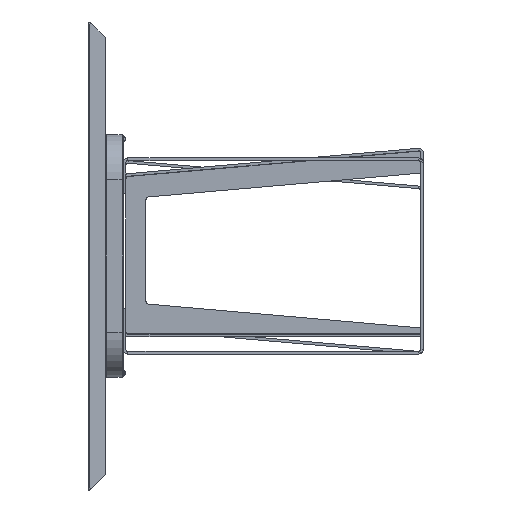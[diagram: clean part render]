
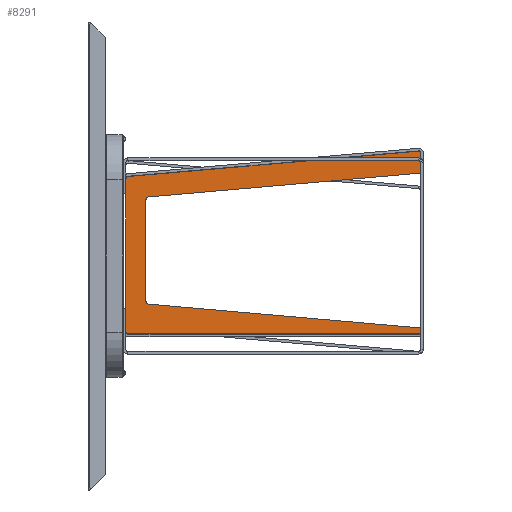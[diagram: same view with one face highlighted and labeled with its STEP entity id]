
A CAD part, left-side view. The second image highlights one B-rep face of the part: STEP entity #8291.
In plain terms, the highlighted planar face has unit normal (-1, 0, 0) as drawn and (0, 0, 1) by its records, which use the part's own axes.
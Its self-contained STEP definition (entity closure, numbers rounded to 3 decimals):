
#98 = ORIENTED_EDGE ( 'NONE', *, *, #192, .T. ) ;
#192 = EDGE_CURVE ( 'NONE', #14121, #15669, #4611, .T. ) ;
#447 = ORIENTED_EDGE ( 'NONE', *, *, #13351, .T. ) ;
#463 = CARTESIAN_POINT ( 'NONE',  ( 133.943, 621.197, 15. ) ) ;
#717 = DIRECTION ( 'NONE',  ( 1., 0., 0. ) ) ;
#840 = VECTOR ( 'NONE', #7956, 1000. ) ;
#1073 = AXIS2_PLACEMENT_3D ( 'NONE', #10682, #1897, #16510 ) ;
#1093 = DIRECTION ( 'NONE',  ( 1., 0., 0. ) ) ;
#1462 = VECTOR ( 'NONE', #18189, 1000. ) ;
#1559 = CARTESIAN_POINT ( 'NONE',  ( -171.5, 6.5, 15. ) ) ;
#1897 = DIRECTION ( 'NONE',  ( 0., 0., 1. ) ) ;
#2302 = CARTESIAN_POINT ( 'NONE',  ( -176.5, 11.5, 15. ) ) ;
#2331 = LINE ( 'NONE', #12354, #1462 ) ;
#2626 = CIRCLE ( 'NONE', #5971, 5. ) ;
#2630 = PLANE ( 'NONE',  #11637 ) ;
#2776 = ORIENTED_EDGE ( 'NONE', *, *, #4427, .T. ) ;
#2796 = AXIS2_PLACEMENT_3D ( 'NONE', #18769, #17245, #4146 ) ;
#3795 = CARTESIAN_POINT ( 'NONE',  ( -176.5, 668.5, 15. ) ) ;
#3819 = ORIENTED_EDGE ( 'NONE', *, *, #12849, .T. ) ;
#3847 = LINE ( 'NONE', #16849, #840 ) ;
#3864 = EDGE_CURVE ( 'NONE', #9550, #4285, #13949, .T. ) ;
#3950 = EDGE_CURVE ( 'NONE', #6817, #14440, #17567, .T. ) ;
#4146 = DIRECTION ( 'NONE',  ( 1., 0., 0. ) ) ;
#4195 = EDGE_CURVE ( 'NONE', #11967, #6537, #17747, .T. ) ;
#4285 = VERTEX_POINT ( 'NONE', #10168 ) ;
#4427 = EDGE_CURVE ( 'NONE', #14962, #11967, #16644, .T. ) ;
#4611 = CIRCLE ( 'NONE', #2796, 5. ) ;
#5099 = DIRECTION ( 'NONE',  ( 1., 0., 0. ) ) ;
#5607 = DIRECTION ( 'NONE',  ( 1., 0., 0. ) ) ;
#5666 = ORIENTED_EDGE ( 'NONE', *, *, #18119, .T. ) ;
#5761 = LINE ( 'NONE', #12921, #12132 ) ;
#5809 = DIRECTION ( 'NONE',  ( -0.087, -0.996, 0. ) ) ;
#5971 = AXIS2_PLACEMENT_3D ( 'NONE', #8373, #17167, #5607 ) ;
#6057 = CIRCLE ( 'NONE', #10011, 8. ) ;
#6261 = CARTESIAN_POINT ( 'NONE',  ( 125.973, 628.5, 15. ) ) ;
#6537 = VERTEX_POINT ( 'NONE', #7916 ) ;
#6683 = DIRECTION ( 'NONE',  ( 1., 0., 0. ) ) ;
#6791 = LINE ( 'NONE', #15495, #11254 ) ;
#6817 = VERTEX_POINT ( 'NONE', #14310 ) ;
#6972 = EDGE_CURVE ( 'NONE', #6817, #12069, #6057, .T. ) ;
#7518 = EDGE_LOOP ( 'NONE', ( #3819, #10106, #9138, #16781, #13957, #447, #5666, #98, #16790, #8322, #17169, #17590, #2776, #14837 ) ) ;
#7874 = CIRCLE ( 'NONE', #17042, 5. ) ;
#7895 = DIRECTION ( 'NONE',  ( 0., 0., -1. ) ) ;
#7916 = CARTESIAN_POINT ( 'NONE',  ( 187.722, 6.5, 15. ) ) ;
#7952 = DIRECTION ( 'NONE',  ( 0., 0., -1. ) ) ;
#7956 = DIRECTION ( 'NONE',  ( -1., 0., 0. ) ) ;
#8291 = ADVANCED_FACE ( 'NONE', ( #12650 ), #2630, .F. ) ;
#8322 = ORIENTED_EDGE ( 'NONE', *, *, #3950, .F. ) ;
#8373 = CARTESIAN_POINT ( 'NONE',  ( -171.5, 668.5, 15. ) ) ;
#8539 = CARTESIAN_POINT ( 'NONE',  ( 174.976, 673.5, 15. ) ) ;
#9135 = CARTESIAN_POINT ( 'NONE',  ( -101.213, 620.5, 15. ) ) ;
#9138 = ORIENTED_EDGE ( 'NONE', *, *, #16485, .T. ) ;
#9267 = CARTESIAN_POINT ( 'NONE',  ( 232.456, 6.5, 15. ) ) ;
#9306 = CIRCLE ( 'NONE', #1073, 5. ) ;
#9524 = CARTESIAN_POINT ( 'NONE',  ( -101.213, 628.5, 15. ) ) ;
#9550 = VERTEX_POINT ( 'NONE', #8539 ) ;
#9617 = CARTESIAN_POINT ( 'NONE',  ( 237.437, 11.936, 15. ) ) ;
#10011 = AXIS2_PLACEMENT_3D ( 'NONE', #9135, #7895, #13550 ) ;
#10106 = ORIENTED_EDGE ( 'NONE', *, *, #17686, .T. ) ;
#10168 = CARTESIAN_POINT ( 'NONE',  ( -171.5, 673.5, 15. ) ) ;
#10206 = VECTOR ( 'NONE', #6683, 1000. ) ;
#10465 = CARTESIAN_POINT ( 'NONE',  ( 232.456, 11.5, 15. ) ) ;
#10682 = CARTESIAN_POINT ( 'NONE',  ( 174.976, 668.5, 15. ) ) ;
#10903 = LINE ( 'NONE', #13768, #10206 ) ;
#11254 = VECTOR ( 'NONE', #18452, 1000. ) ;
#11448 = CARTESIAN_POINT ( 'NONE',  ( -162.284, 14.242, 15. ) ) ;
#11637 = AXIS2_PLACEMENT_3D ( 'NONE', #14277, #13993, #1093 ) ;
#11757 = VECTOR ( 'NONE', #14689, 1000. ) ;
#11967 = VERTEX_POINT ( 'NONE', #463 ) ;
#12069 = VERTEX_POINT ( 'NONE', #9524 ) ;
#12132 = VECTOR ( 'NONE', #14542, 1000. ) ;
#12170 = CARTESIAN_POINT ( 'NONE',  ( 125.973, 620.5, 15. ) ) ;
#12354 = CARTESIAN_POINT ( 'NONE',  ( 179.514, 674., 15. ) ) ;
#12414 = CARTESIAN_POINT ( 'NONE',  ( -177., 673.5, 15. ) ) ;
#12650 = FACE_OUTER_BOUND ( 'NONE', #7518, .T. ) ;
#12849 = EDGE_CURVE ( 'NONE', #6537, #12868, #10903, .T. ) ;
#12868 = VERTEX_POINT ( 'NONE', #9267 ) ;
#12921 = CARTESIAN_POINT ( 'NONE',  ( 238.457, 6.5, 15. ) ) ;
#13229 = EDGE_CURVE ( 'NONE', #13902, #9550, #9306, .T. ) ;
#13330 = VERTEX_POINT ( 'NONE', #3795 ) ;
#13351 = EDGE_CURVE ( 'NONE', #4285, #13330, #2626, .T. ) ;
#13381 = VERTEX_POINT ( 'NONE', #9617 ) ;
#13550 = DIRECTION ( 'NONE',  ( 1., 0., 0. ) ) ;
#13768 = CARTESIAN_POINT ( 'NONE',  ( 238.457, 6.5, 15. ) ) ;
#13902 = VERTEX_POINT ( 'NONE', #14821 ) ;
#13949 = LINE ( 'NONE', #12414, #18156 ) ;
#13957 = ORIENTED_EDGE ( 'NONE', *, *, #3864, .T. ) ;
#13993 = DIRECTION ( 'NONE',  ( 0., 0., -1. ) ) ;
#14121 = VERTEX_POINT ( 'NONE', #2302 ) ;
#14277 = CARTESIAN_POINT ( 'NONE',  ( 0., 0., 15. ) ) ;
#14310 = CARTESIAN_POINT ( 'NONE',  ( -109.183, 621.197, 15. ) ) ;
#14440 = VERTEX_POINT ( 'NONE', #16709 ) ;
#14542 = DIRECTION ( 'NONE',  ( 1., 0., 0. ) ) ;
#14689 = DIRECTION ( 'NONE',  ( 0.087, -0.996, 0. ) ) ;
#14795 = VECTOR ( 'NONE', #5809, 1000. ) ;
#14821 = CARTESIAN_POINT ( 'NONE',  ( 179.957, 668.936, 15. ) ) ;
#14837 = ORIENTED_EDGE ( 'NONE', *, *, #4195, .T. ) ;
#14962 = VERTEX_POINT ( 'NONE', #6261 ) ;
#15495 = CARTESIAN_POINT ( 'NONE',  ( -176.5, 11., 15. ) ) ;
#15669 = VERTEX_POINT ( 'NONE', #1559 ) ;
#16296 = DIRECTION ( 'NONE',  ( 0., 0., 1. ) ) ;
#16345 = AXIS2_PLACEMENT_3D ( 'NONE', #12170, #7952, #5099 ) ;
#16415 = CARTESIAN_POINT ( 'NONE',  ( 186.856, 16.392, 15. ) ) ;
#16436 = EDGE_CURVE ( 'NONE', #14962, #12069, #3847, .T. ) ;
#16485 = EDGE_CURVE ( 'NONE', #13381, #13902, #2331, .T. ) ;
#16510 = DIRECTION ( 'NONE',  ( 1., 0., 0. ) ) ;
#16565 = EDGE_CURVE ( 'NONE', #15669, #14440, #5761, .T. ) ;
#16644 = CIRCLE ( 'NONE', #16345, 8. ) ;
#16709 = CARTESIAN_POINT ( 'NONE',  ( -162.962, 6.5, 15. ) ) ;
#16722 = DIRECTION ( 'NONE',  ( -1., 0., 0. ) ) ;
#16781 = ORIENTED_EDGE ( 'NONE', *, *, #13229, .T. ) ;
#16790 = ORIENTED_EDGE ( 'NONE', *, *, #16565, .T. ) ;
#16849 = CARTESIAN_POINT ( 'NONE',  ( 0., 628.5, 15. ) ) ;
#17042 = AXIS2_PLACEMENT_3D ( 'NONE', #10465, #16296, #717 ) ;
#17167 = DIRECTION ( 'NONE',  ( 0., 0., 1. ) ) ;
#17169 = ORIENTED_EDGE ( 'NONE', *, *, #6972, .T. ) ;
#17245 = DIRECTION ( 'NONE',  ( 0., 0., 1. ) ) ;
#17567 = LINE ( 'NONE', #11448, #14795 ) ;
#17590 = ORIENTED_EDGE ( 'NONE', *, *, #16436, .F. ) ;
#17686 = EDGE_CURVE ( 'NONE', #12868, #13381, #7874, .T. ) ;
#17747 = LINE ( 'NONE', #16415, #11757 ) ;
#18119 = EDGE_CURVE ( 'NONE', #13330, #14121, #6791, .T. ) ;
#18156 = VECTOR ( 'NONE', #16722, 1000. ) ;
#18189 = DIRECTION ( 'NONE',  ( -0.087, 0.996, 0. ) ) ;
#18452 = DIRECTION ( 'NONE',  ( 0., -1., 0. ) ) ;
#18769 = CARTESIAN_POINT ( 'NONE',  ( -171.5, 11.5, 15. ) ) ;
